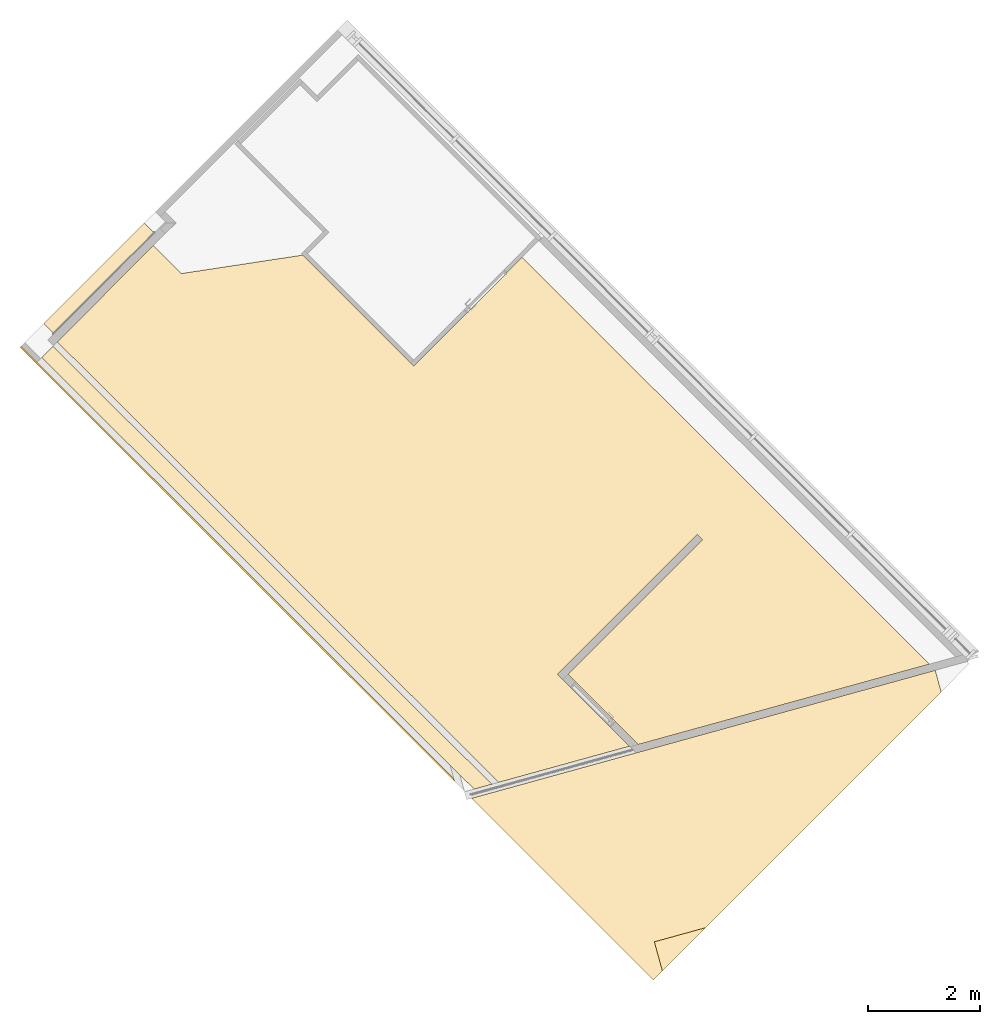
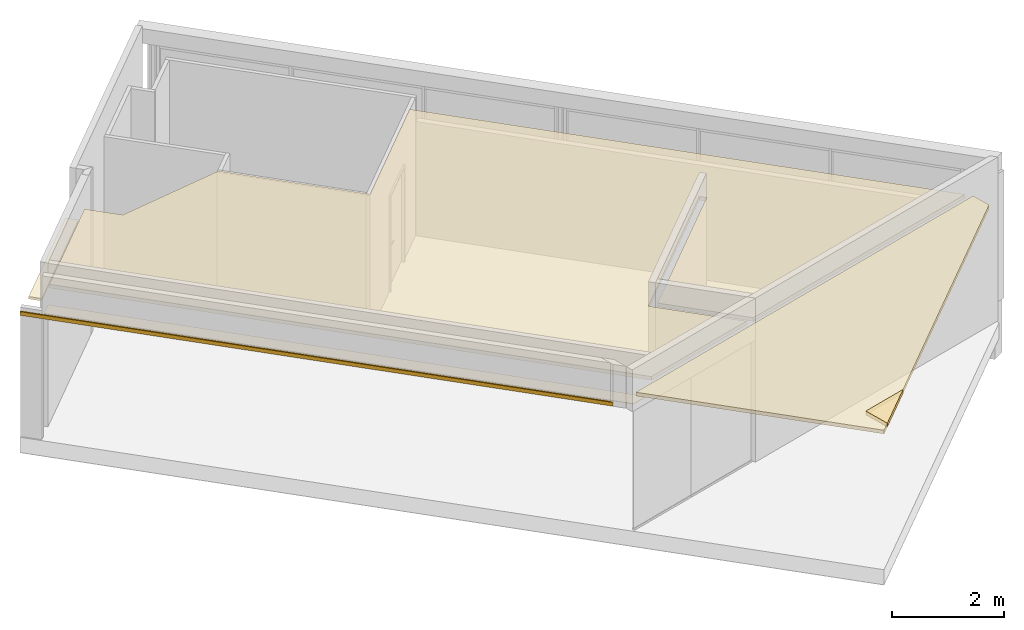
# One storey, part 6 of 6: 6 coverings.
"""IFC2X3 building model written with IfcOpenShell, lengths in millimetres."""

import ifcopenshell
import ifcopenshell.guid

model = None  # the IFC model being written
_history = None  # IfcOwnerHistory: only IFC2X3 demands one
_inside = {}  # id of a spatial element -> (the spatial element, [elements in it])
_under = {}  # id of a project, library or spatial element -> (it, [spatial elements below it])
_declared = {}  # id of a project -> (the project, [libraries it declares])
_typed = {}  # id of a type object -> (the type object, [elements of that type])
_made_of = {}  # id of a material, layer set ... -> (it, [elements and type objects made of it])


def new_model(schema):
    """Start an empty IFC model of exactly this schema.

    Asked for "IFC4X3", IfcOpenShell would pick the latest addendum, in which some entities
    have other attributes; the version numbers below select the first issue.
    IFC2X3 requires an IfcOwnerHistory on every rooted entity: one is made here for all.
    """
    global model, _history
    if schema == "IFC4X3":
        model = ifcopenshell.file(schema_version=(4, 3, 0, 0))
    else:
        model = ifcopenshell.file(schema=schema)
    _inside.clear()
    _under.clear()
    _declared.clear()
    _typed.clear()
    _made_of.clear()
    _history = None
    if model.schema == "IFC2X3":
        org = make("IfcOrganization", Name="unknown")
        user = make(
            "IfcPersonAndOrganization",
            ThePerson=make("IfcPerson", FamilyName="unknown"),
            TheOrganization=org,
        )
        app = make(
            "IfcApplication",
            ApplicationDeveloper=org,
            Version="unknown",
            ApplicationFullName="unknown",
            ApplicationIdentifier="unknown",
        )
        _history = make(
            "IfcOwnerHistory",
            OwningUser=user,
            OwningApplication=app,
            ChangeAction="ADDED",
            CreationDate=0,
        )
    return model


def make(cls, **values):
    """One entity of the class cls with the attributes given. An attribute that is None is left unset."""
    return model.create_entity(
        cls, **{name: value for name, value in values.items() if value is not None}
    )


def entity(cls, *values):
    """Any entity or typed value of the class cls, its attributes in the order of the schema. None: left unset."""
    e = model.create_entity(cls)
    for i, value in enumerate(values):
        if value is not None:
            e[i] = value
    return e


def rooted(cls, **values):
    """An entity with a GlobalId (a new one), such as an element, a storey or a relation."""
    return make(cls, GlobalId=ifcopenshell.guid.new(), OwnerHistory=_history, **values)


def si_unit(unit_type, name, prefix=None):
    """IfcSIUnit, for example si_unit("LENGTHUNIT", "METRE", prefix="MILLI")."""
    return make("IfcSIUnit", UnitType=unit_type, Prefix=prefix, Name=name)


def converted_unit(unit_type, name, factor, base, dimensions=None, offset=None):
    """IfcConversionBasedUnit, such as the inch: factor (a typed value) times the base unit."""
    return make(
        "IfcConversionBasedUnit"
        if offset is None
        else "IfcConversionBasedUnitWithOffset",
        ConversionOffset=offset,
        Dimensions=None
        if dimensions is None
        else entity("IfcDimensionalExponents", *dimensions),
        UnitType=unit_type,
        Name=name,
        ConversionFactor=make(
            "IfcMeasureWithUnit", ValueComponent=factor, UnitComponent=base
        ),
    )


def derived_unit(unit_type, elements):
    """IfcDerivedUnit: a product of units, each with its exponent."""
    return make(
        "IfcDerivedUnit",
        Elements=[
            make("IfcDerivedUnitElement", Unit=unit, Exponent=power)
            for unit, power in elements
        ],
        UnitType=unit_type,
    )


def assignment(units):
    """IfcUnitAssignment: the units of a project."""
    return None if units is None else make("IfcUnitAssignment", Units=units)


def point(xyz):
    """IfcCartesianPoint."""
    return None if xyz is None else make("IfcCartesianPoint", Coordinates=xyz)


def direction(xyz):
    """IfcDirection."""
    return None if xyz is None else make("IfcDirection", DirectionRatios=xyz)


def frame(location, z_axis=None, x_axis=None):
    """IfcAxis2Placement3D, a coordinate frame: its origin and axes. An axis left out is left unset."""
    return make(
        "IfcAxis2Placement3D",
        Location=point(location),
        Axis=direction(z_axis),
        RefDirection=direction(x_axis),
    )


def origin():
    """The frame at (0, 0, 0) with its axes left unset."""
    return frame((0.0, 0.0, 0.0))


def origin_with_axes():
    """The frame at (0, 0, 0) with the z axis (0, 0, 1) and the x axis (1, 0, 0) written out."""
    return frame((0.0, 0.0, 0.0), z_axis=(0.0, 0.0, 1.0), x_axis=(1.0, 0.0, 0.0))


def place(relative_to, where):
    """IfcLocalPlacement: puts the frame where relative to a parent placement (None: the world)."""
    return make(
        "IfcLocalPlacement", PlacementRelTo=relative_to, RelativePlacement=where
    )


def context(
    kind, dimensions, precision=None, world=None, true_north=None, identifier=None
):
    """IfcGeometricRepresentationContext, for example the 3D "Model" context."""
    return make(
        "IfcGeometricRepresentationContext",
        ContextIdentifier=identifier,
        ContextType=kind,
        CoordinateSpaceDimension=dimensions,
        Precision=precision,
        WorldCoordinateSystem=world,
        TrueNorth=true_north,
    )


def subcontext(parent, identifier, kind, view, scale=None):
    """IfcGeometricRepresentationSubContext, for example "Body" below "Model"."""
    return make(
        "IfcGeometricRepresentationSubContext",
        ContextIdentifier=identifier,
        ContextType=kind,
        ParentContext=parent,
        TargetScale=scale,
        TargetView=view,
    )


def project(units=None, contexts=None):
    """IfcProject with its units and contexts."""
    return rooted(
        "IfcProject",
        Name="project",
        RepresentationContexts=contexts,
        UnitsInContext=assignment(units),
    )


def spatial(cls, under=None, at=None, **own):
    """A site, building, storey or space (cls), placed at a placement, below another one or the project."""
    s = rooted(cls, ObjectPlacement=at, **own)
    if under is not None:
        _under.setdefault(under.id(), (under, []))[1].append(s)
    return s


def polyline(points):
    """IfcPolyline through the points."""
    return make("IfcPolyline", Points=[point(p) for p in points])


def outline(outer, holes=None, kind="AREA"):
    """IfcArbitraryClosedProfileDef: a profile drawn as a closed curve; with holes, ...WithVoids."""
    if holes is None:
        return make("IfcArbitraryClosedProfileDef", ProfileType=kind, OuterCurve=outer)
    return make(
        "IfcArbitraryProfileDefWithVoids",
        ProfileType=kind,
        OuterCurve=outer,
        InnerCurves=holes,
    )


def extrude(swept, where, along, depth):
    """IfcExtrudedAreaSolid: the profile swept, set in the frame where, extruded along a direction by depth."""
    return make(
        "IfcExtrudedAreaSolid",
        SweptArea=swept,
        Position=where,
        ExtrudedDirection=direction(along),
        Depth=depth,
    )


def faces_of(points, faces, orient=None, outer=None):
    """IfcFace entities. A face is a list of loops; a loop is a list of indices into points, from 0.

    orient and outer hold one flag for each loop. By default every Orientation is true, the
    first loop of a face is its IfcFaceOuterBound and the others are IfcFaceBound.
    """
    made = []
    for i, loops in enumerate(faces):
        bounds = []
        for j, loop in enumerate(loops):
            is_outer = j == 0 if outer is None else outer[i][j]
            bounds.append(
                make(
                    "IfcFaceOuterBound" if is_outer else "IfcFaceBound",
                    Bound=make("IfcPolyLoop", Polygon=[points[k] for k in loop]),
                    Orientation=True if orient is None else orient[i][j],
                )
            )
        made.append(make("IfcFace", Bounds=bounds))
    return made


def faceted_brep(points, faces, orient=None, outer=None, voids=None):
    """IfcFacetedBrep: a solid bounded by flat faces; with voids (closed shells), ...WithVoids."""
    shared = [point(p) for p in points]
    hull = make("IfcClosedShell", CfsFaces=faces_of(shared, faces, orient, outer))
    if voids is None:
        return make("IfcFacetedBrep", Outer=hull)
    return make(
        "IfcFacetedBrepWithVoids",
        Outer=hull,
        Voids=[
            make(cls, CfsFaces=faces_of(shared, fs, o, b)) for cls, fs, o, b in voids
        ],
    )


def shape(context_of_items, identifier, shape_type, items):
    """IfcShapeRepresentation: the items that make up one representation, for example the "Body"."""
    return make(
        "IfcShapeRepresentation",
        ContextOfItems=context_of_items,
        RepresentationIdentifier=identifier,
        RepresentationType=shape_type,
        Items=items,
    )


def material(Name=None, Category=None):
    """IfcMaterial."""
    return make("IfcMaterial", Name=Name, Category=Category)


def layer(
    of_material, thickness, ventilated=None, Name=None, Category=None, Priority=None
):
    """IfcMaterialLayer: one layer of a wall or slab, of a material (None: an air gap)."""
    return make(
        "IfcMaterialLayer",
        Material=of_material,
        LayerThickness=thickness,
        IsVentilated=ventilated,
        Name=Name,
        Category=Category,
        Priority=Priority,
    )


def layer_set(layers, Name=None):
    """IfcMaterialLayerSet."""
    return make("IfcMaterialLayerSet", MaterialLayers=layers, LayerSetName=Name)


def layer_usage(for_layer_set, set_direction, sense, offset, extent=None):
    """IfcMaterialLayerSetUsage: how a layer set lies in its element."""
    return make(
        "IfcMaterialLayerSetUsage",
        ForLayerSet=for_layer_set,
        LayerSetDirection=set_direction,
        DirectionSense=sense,
        OffsetFromReferenceLine=offset,
        ReferenceExtent=extent,
    )


def made_of(thing, what):
    """Note that an element or type object is made of a material, layer set ...; save() writes the relation."""
    if what is not None:
        _made_of.setdefault(what.id(), (what, []))[1].append(thing)
    return thing


def type_object(cls, material=None, **own):
    """A type object (cls), such as IfcWallType, which elements share."""
    return made_of(rooted(cls, **own), material)


def element(
    cls,
    number,
    at=None,
    inside=None,
    cuts=None,
    type_object=None,
    material=None,
    context=None,
    identifier="Body",
    shape_type=None,
    held_by="IfcProductDefinitionShape",
    body=None,
    shapes=None,
    **own,
):
    """One element of the class cls, such as IfcWall. Its Tag is "e" and its number.

    at: its placement. inside: the storey or other place that contains it. cuts: it is an
    opening in that element (IfcRelVoidsElement). A single representation is given by context,
    identifier, shape_type and body (its items); several are given by shapes. held_by: the class
    of the entity that holds the representations. save() writes the other relations.
    """
    e = rooted(cls, Tag="e%d" % number, ObjectPlacement=at, **own)
    if body is not None:
        shapes = [shape(context, identifier, shape_type, body)]
    if shapes is not None:
        e.Representation = make(held_by, Representations=shapes)
    if inside is not None:
        _inside.setdefault(inside.id(), (inside, []))[1].append(e)
    if cuts is not None:
        rooted(
            "IfcRelVoidsElement", RelatingBuildingElement=cuts, RelatedOpeningElement=e
        )
    if type_object is not None:
        _typed.setdefault(type_object.id(), (type_object, []))[1].append(e)
    return made_of(e, material)


def aggregate(whole, parts):
    """IfcRelAggregates: a whole, such as a stair, and the parts it consists of."""
    return rooted("IfcRelAggregates", RelatingObject=whole, RelatedObjects=parts)


def save(model, path):
    """Write the relations noted so far, then the file.

    IfcRelAggregates (storeys below a building ...), IfcRelContainedInSpatialStructure (elements
    in a storey), IfcRelDefinesByType, IfcRelAssociatesMaterial and IfcRelDeclares: one each for
    every whole, place, type object, material and project.
    """
    for whole, parts in _under.values():
        aggregate(whole, parts)
    for where, things in _inside.values():
        rooted(
            "IfcRelContainedInSpatialStructure",
            RelatedElements=things,
            RelatingStructure=where,
        )
    for kind, things in _typed.values():
        rooted("IfcRelDefinesByType", RelatedObjects=things, RelatingType=kind)
    for what, things in _made_of.values():
        rooted("IfcRelAssociatesMaterial", RelatedObjects=things, RelatingMaterial=what)
    for by, libraries in _declared.values():
        rooted("IfcRelDeclares", RelatingContext=by, RelatedDefinitions=libraries)
    model.write(path)


model = new_model("IFC2X3")

# Units and contexts
model_context = context("Model", 3, precision=0.01, world=origin(), true_north=direction((6.12323399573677e-17, 1.0)))
plan_context = context("Plan", 3, precision=1e-05, world=origin_with_axes())
body_context = subcontext(model_context, "Body", "Model", "MODEL_VIEW")
ifc_project = project(units=[converted_unit("PLANEANGLEUNIT", "DEGREE", entity("IfcPositiveLengthMeasure", 0.0174532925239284), si_unit("PLANEANGLEUNIT", "RADIAN"), dimensions=[0, 0, 0, 0, 0, 0, 0]), si_unit("AREAUNIT", "SQUARE_METRE"), si_unit("LENGTHUNIT", "METRE", prefix="MILLI"), si_unit("MASSUNIT", "GRAM", prefix="KILO"), si_unit("POWERUNIT", "WATT"), si_unit("PRESSUREUNIT", "PASCAL", prefix="KILO"), si_unit("FORCEUNIT", "NEWTON", prefix="KILO"), si_unit("ELECTRICVOLTAGEUNIT", "VOLT"), si_unit("ELECTRICCURRENTUNIT", "AMPERE"), si_unit("THERMODYNAMICTEMPERATUREUNIT", "DEGREE_CELSIUS"), si_unit("TIMEUNIT", "SECOND"), si_unit("VOLUMEUNIT", "CUBIC_METRE"), derived_unit("LINEARVELOCITYUNIT", [(si_unit("LENGTHUNIT", "METRE"), 1), (si_unit("TIMEUNIT", "SECOND"), -1)]), derived_unit("VOLUMETRICFLOWRATEUNIT", [(si_unit("VOLUMEUNIT", "CUBIC_METRE"), 1), (si_unit("TIMEUNIT", "SECOND"), -1)]), derived_unit("THERMALTRANSMITTANCEUNIT", [(si_unit("POWERUNIT", "WATT"), 1), (si_unit("THERMODYNAMICTEMPERATUREUNIT", "KELVIN"), -1), (si_unit("AREAUNIT", "SQUARE_METRE"), -1)]), derived_unit("SOUNDPRESSUREUNIT", [(si_unit("PRESSUREUNIT", "PASCAL"), 1)])], contexts=[model_context, plan_context])

# Site, building, storey
site_placement = place(None, frame((0.0, -2.21771188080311e-09, 0.0), z_axis=(0.0, 0.0, 1.0), x_axis=(0.266093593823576, -0.963947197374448, 0.0)))
site = spatial("IfcSite", under=ifc_project, at=site_placement, Name="ENZV", CompositionType="ELEMENT")
building_placement = place(site_placement, origin_with_axes())
building = spatial("IfcBuilding", under=site, at=building_placement, Name="ZV001", CompositionType="ELEMENT")
storey_placement = place(building_placement, frame((0.0, 0.0, 9300.0), z_axis=(0.0, 0.0, 1.0), x_axis=(1.0, 0.0, 0.0)))
storey = spatial("IfcBuildingStorey", under=building, at=storey_placement, Name="H02", CompositionType="ELEMENT", Elevation=9300.0)

# Coverings
ifc_material_1 = material(Name="Standard")
ifc_layer_1 = layer(ifc_material_1, 64.0)
ifc_material_2 = material(Name="Systemhimling 600x600mm")
ifc_layer_2 = layer(ifc_material_2, 16.0)
ifc_layer_set_1 = layer_set([ifc_layer_1, ifc_layer_2], Name="Compound Ceiling:ENZV_Eksisterende himling_600x600mm")
ifc_layer_usage_1 = layer_usage(ifc_layer_set_1, "AXIS3", "NEGATIVE", 80.0)
covering_type_1 = type_object("IfcCoveringType", Name="Compound Ceiling:ENZV_Eksisterende himling_600x600mm", PredefinedType="CEILING")
covering_1_placement = place(storey_placement, frame((-261285.175186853, 420579.869050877, 2950.0), z_axis=(0.0, 0.0, 1.0), x_axis=(1.0, 0.0, 0.0)))
element("IfcCovering", 1, at=covering_1_placement, inside=storey, type_object=covering_type_1, material=ifc_layer_usage_1, Name="Compound Ceiling:ENZV_Eksisterende himling_600x600mm", ObjectType="Compound Ceiling:ENZV_Eksisterende himling_600x600mm", PredefinedType="CEILING", context=body_context, shape_type="SweptSolid", body=[
    extrude(outline(polyline([(6808.97704649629, 929.811035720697), (7514.53811709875, 929.811035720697), (7514.5381170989, 3349.83904643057), (-3574.16743187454, 3349.83904643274), (-4767.01559375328, 1250.93539184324), (-2957.50213495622, 1250.93539191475), (-2957.50213495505, -2269.0536032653), (-3090.50213495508, -2269.05360326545), (-3090.50213495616, 1117.93539190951), (-4856.40464712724, 1117.93539183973), (-7511.59426293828, -3554.06509100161), (2726.04865115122, -3554.06509059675), (2726.04865115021, -825.400840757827), (5515.03989252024, -825.403502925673), (6808.97704649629, 929.811035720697)])), frame((6073.7580532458, 6625.30026827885, 0.0), z_axis=(0.0, 0.0, 1.0), x_axis=(-0.869405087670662, -0.49409998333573, 0.0)), (0.0, 0.0, 1.0), 79.9999999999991),
])
covering_2_placement = place(storey_placement, frame((-267285.488034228, 414159.543038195, 2650.0), z_axis=(0.0, 0.0, 1.0), x_axis=(1.0, 0.0, 0.0)))
element("IfcCovering", 2, at=covering_2_placement, inside=storey, type_object=covering_type_1, Name="Compound Ceiling:ENZV_Eksisterende himling_600x600mm", ObjectType="Compound Ceiling:ENZV_Eksisterende himling_600x600mm", PredefinedType="CEILING", context=body_context, shape_type="Brep", body=[
    faceted_brep([(16613.1926661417, 11151.195348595, 0.0), (16613.1926661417, 11151.195348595, 79.9999999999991), (16554.8325343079, 11151.195348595, 79.9999999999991), (16554.8325343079, 11151.195348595, 0.0), (7103.0217551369, 5779.54325358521, 79.9999999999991), (7103.0217551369, 5779.54325358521, 0.0), (7117.27619111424, 5754.46161345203, 0.0), (7117.27619111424, 5754.46161345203, 79.9999999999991)], [[[0, 1, 2, 3]], [[4, 5, 3, 2]], [[5, 6, 0, 3]], [[1, 7, 4, 2]], [[6, 5, 4, 7]], [[7, 1, 0, 6]]], orient=[[False], [False], [False], [False], [False], [False]]),
])
covering_3_placement = place(storey_placement, frame((-250303.862367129, 425430.73838679, 2950.0), z_axis=(0.0, 0.0, 1.0), x_axis=(1.0, 0.0, 0.0)))
element("IfcCovering", 3, at=covering_3_placement, inside=storey, type_object=covering_type_1, Name="Compound Ceiling:ENZV_Eksisterende himling_600x600mm", ObjectType="Compound Ceiling:ENZV_Eksisterende himling_600x600mm", PredefinedType="CEILING", context=body_context, shape_type="Brep", body=[
    faceted_brep([(397.221543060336, 8644.68505166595, 0.0), (397.221543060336, 8644.68505166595, 79.9999999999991), (0.0, 8644.68505166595, 79.9999999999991), (0.0, 8644.68505166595, 0.0), (0.0, 89.3884050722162, 79.9999999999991), (0.0, 89.3884050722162, 0.0), (3863.80385547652, 2544.99999991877, 0.0), (3863.80385547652, 2544.99999991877, 79.9999999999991), (3325.600927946, 2544.99999991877, 79.9999999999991), (3325.600927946, 2544.99999991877, 0.0), (3325.600927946, 3492.00429867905, 79.9999999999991), (3325.600927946, 3492.00429867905, 0.0), (3975.37648983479, 2348.68043538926, -5.6843418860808e-14), (3975.37648983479, 2348.68043538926, 79.999999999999)], [[[0, 1, 2, 3]], [[4, 5, 3, 2]], [[6, 7, 8, 9]], [[10, 11, 9, 8]], [[5, 12, 6, 9, 11, 0, 3]], [[1, 10, 8, 7, 13, 4, 2]], [[13, 7, 6, 12]], [[11, 10, 1, 0]], [[12, 5, 4, 13]]], orient=[[False], [False], [False], [False], [False], [False], [False], [False], [False]]),
])
covering_type_2 = type_object("IfcCoveringType", Name="Compound Ceiling:ENZV_H03_Hygienehimling 600x600mm", PredefinedType="CEILING")
covering_4_placement = place(storey_placement, frame((-263457.323581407, 419443.978034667, 2600.0), z_axis=(0.0, 0.0, 1.0), x_axis=(1.0, 0.0, 0.0)))
element("IfcCovering", 4, at=covering_4_placement, inside=storey, type_object=covering_type_2, Name="Compound Ceiling:ENZV_H03_Hygienehimling 600x600mm", ObjectType="Compound Ceiling:ENZV_H03_Hygienehimling 600x600mm", PredefinedType="CEILING", context=body_context, shape_type="Brep", body=[
    faceted_brep([(3204.07497360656, 1110.50443119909, 0.0), (3204.07497360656, 1110.50443119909, 51.999999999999), (1953.94635088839, 3310.19724943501, 51.999999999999), (1953.94635088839, 3310.19724943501, 0.0), (1743.09407950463, 3190.34881134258, 51.999999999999), (1743.09407950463, 3190.34881134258, 0.0), (2993.21856068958, 990.67059127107, 0.0), (2993.21856068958, 990.67059127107, 51.999999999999)], [[[0, 1, 2, 3]], [[4, 5, 3, 2]], [[6, 7, 1, 0]], [[5, 6, 0, 3]], [[7, 4, 2, 1]], [[7, 6, 5, 4]]], orient=[[False], [False], [False], [False], [False], [False]]),
])
ifc_material_3 = material(Name="Gips")
ifc_layer_3 = layer(ifc_material_3, 13.0)
ifc_layer_set_2 = layer_set([ifc_layer_3], Name="Compound Ceiling:ENZV_H04_Fast gipshimling")
ifc_layer_usage_2 = layer_usage(ifc_layer_set_2, "AXIS3", "NEGATIVE", 13.0)
covering_type_3 = type_object("IfcCoveringType", Name="Compound Ceiling:ENZV_H04_Fast gipshimling", PredefinedType="CEILING")
covering_5_placement = place(storey_placement, frame((-260036.076588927, 420239.815949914, 2650.0), z_axis=(0.0, 0.0, 1.0), x_axis=(1.0, 0.0, 0.0)))
element("IfcCovering", 5, at=covering_5_placement, inside=storey, type_object=covering_type_3, material=ifc_layer_usage_2, Name="Compound Ceiling:ENZV_H04_Fast gipshimling", ObjectType="Compound Ceiling:ENZV_H04_Fast gipshimling", PredefinedType="CEILING", context=body_context, shape_type="SweptSolid", body=[
    extrude(outline(polyline([(-5553.89103826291, -141.56654651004), (5473.43599001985, -141.56654651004), (5473.43599001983, 141.566546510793), (-5392.98094177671, 141.566546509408), (-5553.89103826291, -141.56654651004)])), frame((4828.5811250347, 2827.50330723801, 0.0), z_axis=(0.0, 0.0, 1.0), x_axis=(-0.869405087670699, -0.494099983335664, 0.0)), (0.0, 0.0, 1.0), 12.9999999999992),
])
covering_type_4 = type_object("IfcCoveringType", Name="Compound Ceiling:ENZV_H02_Mineralullhimling 600x600mm", PredefinedType="CEILING")
covering_6_placement = place(storey_placement, frame((-246978.261439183, 427975.738386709, 2950.0), z_axis=(0.0, 0.0, 1.0), x_axis=(1.0, 0.0, 0.0)))
element("IfcCovering", 6, at=covering_6_placement, inside=storey, type_object=covering_type_4, Name="Compound Ceiling:ENZV_H02_Mineralullhimling 600x600mm", ObjectType="Compound Ceiling:ENZV_H02_Mineralullhimling 600x600mm", PredefinedType="CEILING", context=body_context, shape_type="Brep", body=[
    faceted_brep([(-1.00441765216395e-10, 947.004298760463, 0.0), (-1.00441765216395e-10, 947.004298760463, 79.9999999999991), (-1.62799551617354e-10, 4.14729584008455e-10, 79.9999999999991), (-1.62799551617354e-10, 4.14729584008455e-10, 0.0), (538.202927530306, 3.79269719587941e-10, 79.9999999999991), (538.202927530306, 3.79269719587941e-10, 0.0)], [[[0, 1, 2, 3]], [[4, 5, 3, 2]], [[5, 0, 3]], [[1, 4, 2]], [[5, 4, 1, 0]]], orient=[[False], [False], [False], [False], [False]]),
])

save(model, "model.ifc")
